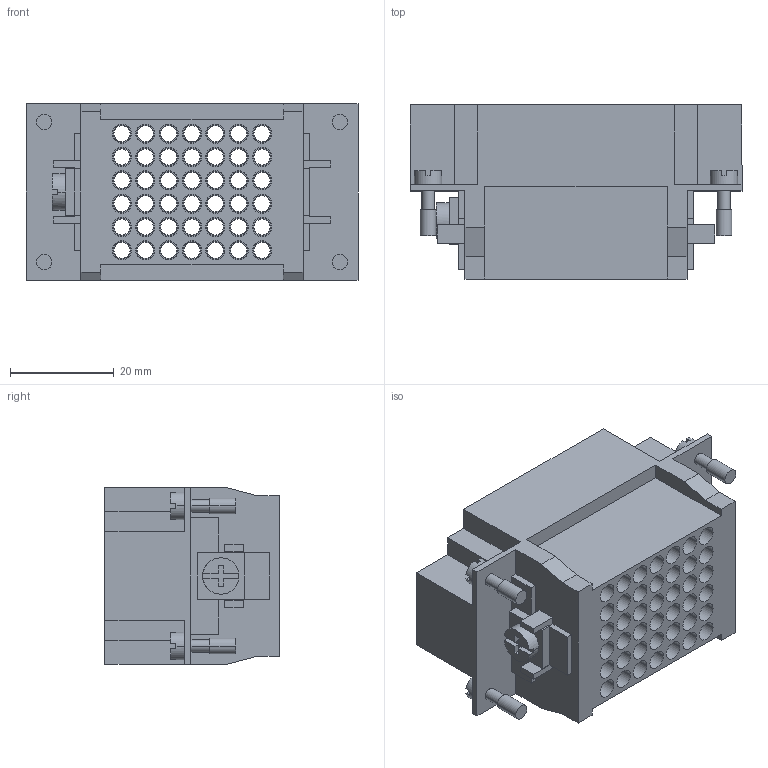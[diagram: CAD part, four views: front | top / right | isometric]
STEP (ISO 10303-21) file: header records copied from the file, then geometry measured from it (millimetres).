
FILE_DESCRIPTION (( 'STEP AP203' ), '1' );
FILE_NAME ('352232.STEP', '2025-06-26T08:14:50', ( '' ), ( '' ), 'SwSTEP 2.0', 'SolidWorks 2018', '' );
FILE_SCHEMA (( 'CONFIG_CONTROL_DESIGN' ));
Length unit declared in the file: millimetre
Products named in the file (1): 352232
Bounding box: 64 x 33.6 x 34 mm (x, y, z)
Volume: 26808.6 mm3; surface area: 21644.7 mm2
Topology: 1 solids, 1 shells, 561 faces, 1380 edges, 920 vertices
Faces by surface type: plane 281, cylinder 280
Entity records: 17035 total; most frequent: DIRECTION 3100, CARTESIAN_POINT 2862, ORIENTED_EDGE 2760, EDGE_CURVE 1380, AXIS2_PLACEMENT_3D 1158, VERTEX_POINT 920, LINE 784, VECTOR 784
